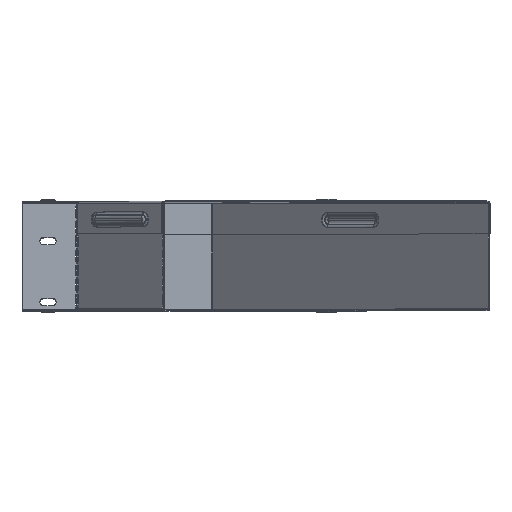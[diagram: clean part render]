
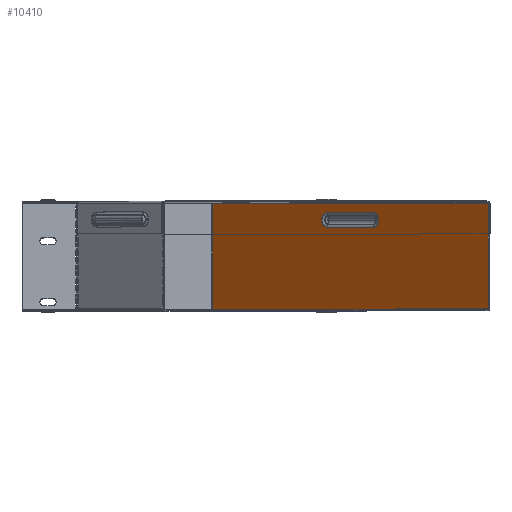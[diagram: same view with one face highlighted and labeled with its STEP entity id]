
A CAD part, top view. The second image highlights one B-rep face of the part: STEP entity #10410.
In plain terms, the highlighted planar face has unit normal (-0.707, 0, 0.707).
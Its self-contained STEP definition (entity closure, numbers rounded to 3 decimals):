
#548 = AXIS2_PLACEMENT_3D ( 'NONE', #4280, #13344, #19802 ) ;
#580 = CARTESIAN_POINT ( 'NONE',  ( 108.148, 76.183, -65.721 ) ) ;
#1071 = CARTESIAN_POINT ( 'NONE',  ( 108.148, 83.1, -65.721 ) ) ;
#1383 = EDGE_CURVE ( 'NONE', #8709, #16928, #7513, .T. ) ;
#1755 = DIRECTION ( 'NONE',  ( -0.707, 0., -0.707 ) ) ;
#2256 = ORIENTED_EDGE ( 'NONE', *, *, #16589, .F. ) ;
#2292 = VERTEX_POINT ( 'NONE', #20095 ) ;
#3294 = DIRECTION ( 'NONE',  ( -0.707, 0., 0.707 ) ) ;
#3457 = EDGE_CURVE ( 'NONE', #12746, #8564, #6907, .T. ) ;
#3641 = ORIENTED_EDGE ( 'NONE', *, *, #16969, .F. ) ;
#3705 = DIRECTION ( 'NONE',  ( 0.707, 0., 0.707 ) ) ;
#3860 = CARTESIAN_POINT ( 'NONE',  ( 65.721, 90.017, -108.148 ) ) ;
#4280 = CARTESIAN_POINT ( 'NONE',  ( 65.721, 83.1, -108.148 ) ) ;
#4284 = ORIENTED_EDGE ( 'NONE', *, *, #9045, .T. ) ;
#4383 = AXIS2_PLACEMENT_3D ( 'NONE', #1071, #16205, #19364 ) ;
#4500 = VERTEX_POINT ( 'NONE', #12400 ) ;
#4517 = ORIENTED_EDGE ( 'NONE', *, *, #1383, .F. ) ;
#5037 = CARTESIAN_POINT ( 'NONE',  ( 86.934, 0., -86.934 ) ) ;
#5310 = CARTESIAN_POINT ( 'NONE',  ( 86.934, 76.183, -86.934 ) ) ;
#5437 = EDGE_LOOP ( 'NONE', ( #10647, #4284, #3641, #4517 ) ) ;
#5464 = VECTOR ( 'NONE', #17485, 1000. ) ;
#6465 = CARTESIAN_POINT ( 'NONE',  ( 214.434, 98.2, 40.566 ) ) ;
#6907 = CIRCLE ( 'NONE', #4383, 6.917 ) ;
#7513 = LINE ( 'NONE', #20910, #9552 ) ;
#7518 = EDGE_CURVE ( 'NONE', #8503, #2292, #10143, .T. ) ;
#8503 = VERTEX_POINT ( 'NONE', #3860 ) ;
#8564 = VERTEX_POINT ( 'NONE', #11078 ) ;
#8709 = VERTEX_POINT ( 'NONE', #12950 ) ;
#8879 = VECTOR ( 'NONE', #19329, 1000. ) ;
#9045 = EDGE_CURVE ( 'NONE', #4500, #16973, #13755, .T. ) ;
#9417 = CARTESIAN_POINT ( 'NONE',  ( -40.255, 98.2, -214.123 ) ) ;
#9552 = VECTOR ( 'NONE', #20645, 1000. ) ;
#9640 = EDGE_CURVE ( 'NONE', #4500, #8709, #15547, .T. ) ;
#9652 = FACE_OUTER_BOUND ( 'NONE', #5437, .T. ) ;
#9702 = VECTOR ( 'NONE', #3705, 1000. ) ;
#10143 = CIRCLE ( 'NONE', #548, 6.917 ) ;
#10410 = ADVANCED_FACE ( 'NONE', ( #18991, #9652 ), #16684, .T. ) ;
#10647 = ORIENTED_EDGE ( 'NONE', *, *, #9640, .F. ) ;
#11078 = CARTESIAN_POINT ( 'NONE',  ( 108.148, 90.017, -65.721 ) ) ;
#12031 = LINE ( 'NONE', #5310, #9702 ) ;
#12349 = AXIS2_PLACEMENT_3D ( 'NONE', #5037, #3294, #15105 ) ;
#12400 = CARTESIAN_POINT ( 'NONE',  ( 214.123, 1., 40.255 ) ) ;
#12407 = CARTESIAN_POINT ( 'NONE',  ( 214.434, 1., 40.566 ) ) ;
#12746 = VERTEX_POINT ( 'NONE', #580 ) ;
#12950 = CARTESIAN_POINT ( 'NONE',  ( -40.255, 1., -214.123 ) ) ;
#12998 = DIRECTION ( 'NONE',  ( -0.707, 0., -0.707 ) ) ;
#13344 = DIRECTION ( 'NONE',  ( -0.707, 0., 0.707 ) ) ;
#13755 = LINE ( 'NONE', #20919, #5464 ) ;
#14947 = ORIENTED_EDGE ( 'NONE', *, *, #18429, .F. ) ;
#15105 = DIRECTION ( 'NONE',  ( 0.707, 0., 0.707 ) ) ;
#15162 = CARTESIAN_POINT ( 'NONE',  ( 86.934, 90.017, -86.934 ) ) ;
#15547 = LINE ( 'NONE', #12407, #19923 ) ;
#16042 = ORIENTED_EDGE ( 'NONE', *, *, #3457, .F. ) ;
#16205 = DIRECTION ( 'NONE',  ( -0.707, 0., 0.707 ) ) ;
#16589 = EDGE_CURVE ( 'NONE', #8564, #8503, #20014, .T. ) ;
#16684 = PLANE ( 'NONE',  #12349 ) ;
#16928 = VERTEX_POINT ( 'NONE', #9417 ) ;
#16969 = EDGE_CURVE ( 'NONE', #16928, #16973, #17933, .T. ) ;
#16973 = VERTEX_POINT ( 'NONE', #20970 ) ;
#17180 = EDGE_LOOP ( 'NONE', ( #17386, #2256, #16042, #14947 ) ) ;
#17386 = ORIENTED_EDGE ( 'NONE', *, *, #7518, .F. ) ;
#17485 = DIRECTION ( 'NONE',  ( 0., 1., 0. ) ) ;
#17933 = LINE ( 'NONE', #6465, #8879 ) ;
#18429 = EDGE_CURVE ( 'NONE', #2292, #12746, #12031, .T. ) ;
#18991 = FACE_BOUND ( 'NONE', #17180, .T. ) ;
#19329 = DIRECTION ( 'NONE',  ( 0.707, 0., 0.707 ) ) ;
#19364 = DIRECTION ( 'NONE',  ( 0., 1., 0. ) ) ;
#19802 = DIRECTION ( 'NONE',  ( 0., 1., 0. ) ) ;
#19923 = VECTOR ( 'NONE', #12998, 1000. ) ;
#20014 = LINE ( 'NONE', #15162, #20260 ) ;
#20095 = CARTESIAN_POINT ( 'NONE',  ( 65.721, 76.183, -108.148 ) ) ;
#20260 = VECTOR ( 'NONE', #1755, 1000. ) ;
#20645 = DIRECTION ( 'NONE',  ( 0., 1., 0. ) ) ;
#20910 = CARTESIAN_POINT ( 'NONE',  ( -40.255, 0., -214.123 ) ) ;
#20919 = CARTESIAN_POINT ( 'NONE',  ( 214.123, 0., 40.255 ) ) ;
#20970 = CARTESIAN_POINT ( 'NONE',  ( 214.123, 98.2, 40.255 ) ) ;
